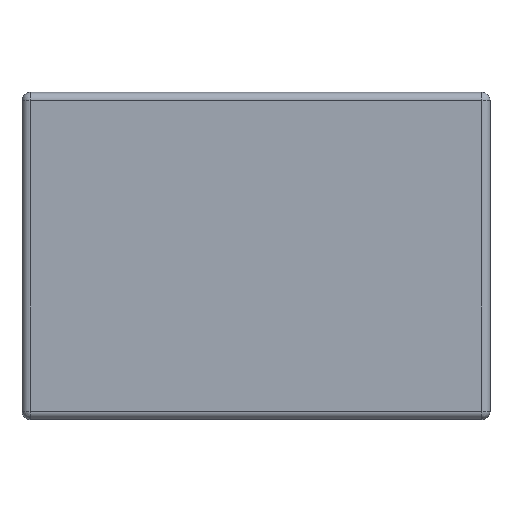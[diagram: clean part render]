
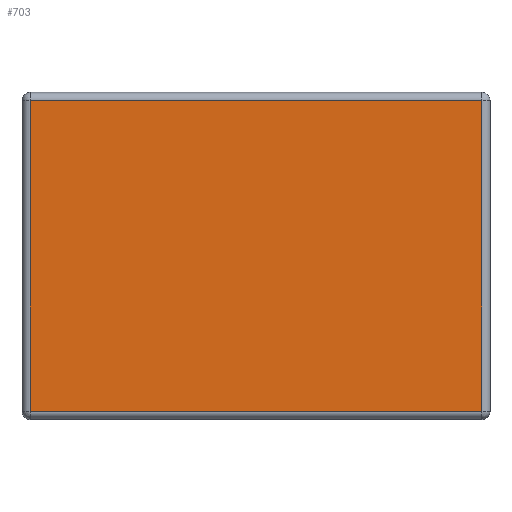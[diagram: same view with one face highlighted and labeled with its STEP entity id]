
A CAD part, top view. The second image highlights one B-rep face of the part: STEP entity #703.
In plain terms, the highlighted planar face has unit normal (0, 0, 1).
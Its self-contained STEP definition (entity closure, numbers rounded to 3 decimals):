
#126 = CYLINDRICAL_SURFACE('',#127,3.);
#127 = AXIS2_PLACEMENT_3D('',#128,#129,#130);
#128 = CARTESIAN_POINT('',(-82.,-59.4,15.));
#129 = DIRECTION('',(-0.,1.,0.));
#130 = DIRECTION('',(-1.,-0.,0.));
#309 = VERTEX_POINT('',#310);
#310 = CARTESIAN_POINT('',(-82.,-56.4,18.));
#330 = EDGE_CURVE('',#309,#331,#333,.T.);
#331 = VERTEX_POINT('',#332);
#332 = CARTESIAN_POINT('',(-82.,56.4,18.));
#333 = SURFACE_CURVE('',#334,(#338,#345),.PCURVE_S1.);
#334 = LINE('',#335,#336);
#335 = CARTESIAN_POINT('',(-82.,-59.4,18.));
#336 = VECTOR('',#337,1.);
#337 = DIRECTION('',(-0.,1.,0.));
#338 = PCURVE('',#126,#339);
#339 = DEFINITIONAL_REPRESENTATION('',(#340),#344);
#340 = LINE('',#341,#342);
#341 = CARTESIAN_POINT('',(1.571,0.));
#342 = VECTOR('',#343,1.);
#343 = DIRECTION('',(0.,1.));
#344 = ( GEOMETRIC_REPRESENTATION_CONTEXT(2) 
PARAMETRIC_REPRESENTATION_CONTEXT() REPRESENTATION_CONTEXT('2D SPACE',''
  ) );
#345 = PCURVE('',#346,#351);
#346 = PLANE('',#347);
#347 = AXIS2_PLACEMENT_3D('',#348,#349,#350);
#348 = CARTESIAN_POINT('',(-85.,-59.4,18.));
#349 = DIRECTION('',(0.,0.,1.));
#350 = DIRECTION('',(1.,0.,-0.));
#351 = DEFINITIONAL_REPRESENTATION('',(#352),#356);
#352 = LINE('',#353,#354);
#353 = CARTESIAN_POINT('',(3.,0.));
#354 = VECTOR('',#355,1.);
#355 = DIRECTION('',(0.,1.));
#356 = ( GEOMETRIC_REPRESENTATION_CONTEXT(2) 
PARAMETRIC_REPRESENTATION_CONTEXT() REPRESENTATION_CONTEXT('2D SPACE',''
  ) );
#510 = CYLINDRICAL_SURFACE('',#511,3.);
#511 = AXIS2_PLACEMENT_3D('',#512,#513,#514);
#512 = CARTESIAN_POINT('',(-85.,-56.4,15.));
#513 = DIRECTION('',(1.,0.,-0.));
#514 = DIRECTION('',(0.,-1.,0.));
#703 = ADVANCED_FACE('',(#704),#346,.T.);
#704 = FACE_BOUND('',#705,.T.);
#705 = EDGE_LOOP('',(#706,#707,#730,#758));
#706 = ORIENTED_EDGE('',*,*,#330,.F.);
#707 = ORIENTED_EDGE('',*,*,#708,.T.);
#708 = EDGE_CURVE('',#309,#709,#711,.T.);
#709 = VERTEX_POINT('',#710);
#710 = CARTESIAN_POINT('',(82.,-56.4,18.));
#711 = SURFACE_CURVE('',#712,(#716,#723),.PCURVE_S1.);
#712 = LINE('',#713,#714);
#713 = CARTESIAN_POINT('',(-85.,-56.4,18.));
#714 = VECTOR('',#715,1.);
#715 = DIRECTION('',(1.,0.,-0.));
#716 = PCURVE('',#346,#717);
#717 = DEFINITIONAL_REPRESENTATION('',(#718),#722);
#718 = LINE('',#719,#720);
#719 = CARTESIAN_POINT('',(0.,3.));
#720 = VECTOR('',#721,1.);
#721 = DIRECTION('',(1.,0.));
#722 = ( GEOMETRIC_REPRESENTATION_CONTEXT(2) 
PARAMETRIC_REPRESENTATION_CONTEXT() REPRESENTATION_CONTEXT('2D SPACE',''
  ) );
#723 = PCURVE('',#510,#724);
#724 = DEFINITIONAL_REPRESENTATION('',(#725),#729);
#725 = LINE('',#726,#727);
#726 = CARTESIAN_POINT('',(-1.571,0.));
#727 = VECTOR('',#728,1.);
#728 = DIRECTION('',(-0.,1.));
#729 = ( GEOMETRIC_REPRESENTATION_CONTEXT(2) 
PARAMETRIC_REPRESENTATION_CONTEXT() REPRESENTATION_CONTEXT('2D SPACE',''
  ) );
#730 = ORIENTED_EDGE('',*,*,#731,.T.);
#731 = EDGE_CURVE('',#709,#732,#734,.T.);
#732 = VERTEX_POINT('',#733);
#733 = CARTESIAN_POINT('',(82.,56.4,18.));
#734 = SURFACE_CURVE('',#735,(#739,#746),.PCURVE_S1.);
#735 = LINE('',#736,#737);
#736 = CARTESIAN_POINT('',(82.,-59.4,18.));
#737 = VECTOR('',#738,1.);
#738 = DIRECTION('',(-0.,1.,0.));
#739 = PCURVE('',#346,#740);
#740 = DEFINITIONAL_REPRESENTATION('',(#741),#745);
#741 = LINE('',#742,#743);
#742 = CARTESIAN_POINT('',(167.,0.));
#743 = VECTOR('',#744,1.);
#744 = DIRECTION('',(0.,1.));
#745 = ( GEOMETRIC_REPRESENTATION_CONTEXT(2) 
PARAMETRIC_REPRESENTATION_CONTEXT() REPRESENTATION_CONTEXT('2D SPACE',''
  ) );
#746 = PCURVE('',#747,#752);
#747 = CYLINDRICAL_SURFACE('',#748,3.);
#748 = AXIS2_PLACEMENT_3D('',#749,#750,#751);
#749 = CARTESIAN_POINT('',(82.,-59.4,15.));
#750 = DIRECTION('',(-0.,1.,0.));
#751 = DIRECTION('',(1.,0.,-0.));
#752 = DEFINITIONAL_REPRESENTATION('',(#753),#757);
#753 = LINE('',#754,#755);
#754 = CARTESIAN_POINT('',(-1.571,0.));
#755 = VECTOR('',#756,1.);
#756 = DIRECTION('',(-0.,1.));
#757 = ( GEOMETRIC_REPRESENTATION_CONTEXT(2) 
PARAMETRIC_REPRESENTATION_CONTEXT() REPRESENTATION_CONTEXT('2D SPACE',''
  ) );
#758 = ORIENTED_EDGE('',*,*,#759,.F.);
#759 = EDGE_CURVE('',#331,#732,#760,.T.);
#760 = SURFACE_CURVE('',#761,(#765,#772),.PCURVE_S1.);
#761 = LINE('',#762,#763);
#762 = CARTESIAN_POINT('',(-85.,56.4,18.));
#763 = VECTOR('',#764,1.);
#764 = DIRECTION('',(1.,0.,-0.));
#765 = PCURVE('',#346,#766);
#766 = DEFINITIONAL_REPRESENTATION('',(#767),#771);
#767 = LINE('',#768,#769);
#768 = CARTESIAN_POINT('',(0.,115.8));
#769 = VECTOR('',#770,1.);
#770 = DIRECTION('',(1.,0.));
#771 = ( GEOMETRIC_REPRESENTATION_CONTEXT(2) 
PARAMETRIC_REPRESENTATION_CONTEXT() REPRESENTATION_CONTEXT('2D SPACE',''
  ) );
#772 = PCURVE('',#773,#778);
#773 = CYLINDRICAL_SURFACE('',#774,3.);
#774 = AXIS2_PLACEMENT_3D('',#775,#776,#777);
#775 = CARTESIAN_POINT('',(-85.,56.4,15.));
#776 = DIRECTION('',(1.,0.,-0.));
#777 = DIRECTION('',(0.,1.,0.));
#778 = DEFINITIONAL_REPRESENTATION('',(#779),#783);
#779 = LINE('',#780,#781);
#780 = CARTESIAN_POINT('',(1.571,0.));
#781 = VECTOR('',#782,1.);
#782 = DIRECTION('',(0.,1.));
#783 = ( GEOMETRIC_REPRESENTATION_CONTEXT(2) 
PARAMETRIC_REPRESENTATION_CONTEXT() REPRESENTATION_CONTEXT('2D SPACE',''
  ) );
